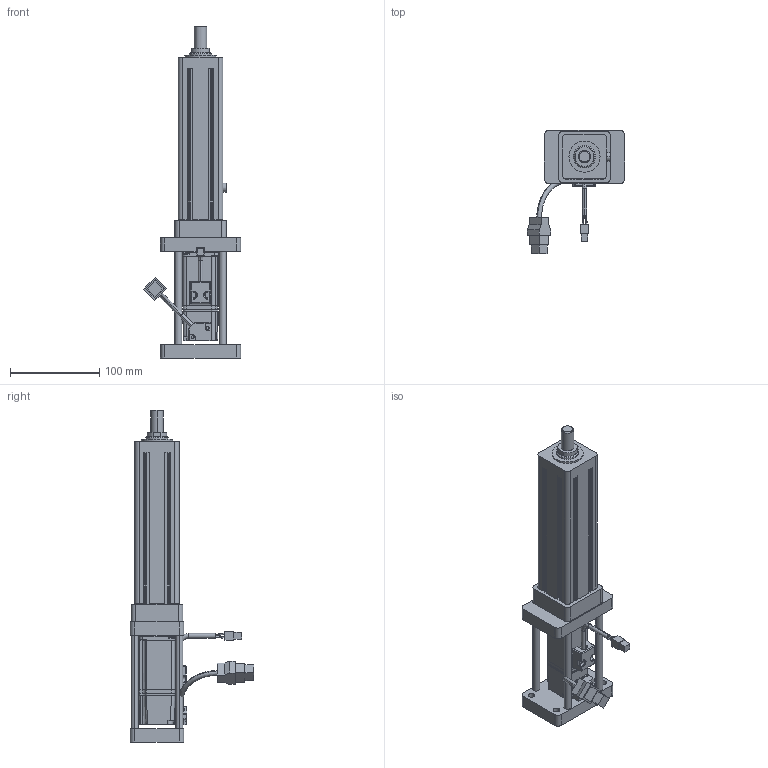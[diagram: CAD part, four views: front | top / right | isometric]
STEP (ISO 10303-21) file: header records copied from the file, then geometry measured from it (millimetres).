
FILE_DESCRIPTION (( 'STEP AP203' ), '1' );
FILE_NAME ('S1眻盄綴楊擘假蚾.STEP', '2024-05-27T05:06:39', ( '' ), ( '' ), 'SwSTEP 2.0', 'SolidWorks 2018', '' );
FILE_SCHEMA (( 'CONFIG_CONTROL_DESIGN' ));
Length unit declared in the file: millimetre
Products named in the file (3): S1眻盄綴楊擘; ECMA-CX0401ES-40框號系列機種-100W低慣量系列; S1眻盄綴楊擘假蚾
Assembly tree (2 placements, depth 2):
  S1眻盄綴楊擘假蚾
    S1眻盄綴楊擘
    ECMA-CX0401ES-40框號系列機種-100W低慣量系列
Bounding box: 109.14 x 138.63 x 373 mm (x, y, z)
Volume: 617578.6 mm3; surface area: 173852.2 mm2
Topology: 2 solids, 16 shells, 689 faces, 1693 edges, 1058 vertices
Faces by surface type: plane 317, cylinder 262, cone 46, torus 31, sphere 17, bspline 16
Entity records: 23317 total; most frequent: CARTESIAN_POINT 6899, ORIENTED_EDGE 3382, DIRECTION 3284, EDGE_CURVE 1691, AXIS2_PLACEMENT_3D 1157, VERTEX_POINT 1058, LINE 970, VECTOR 970
